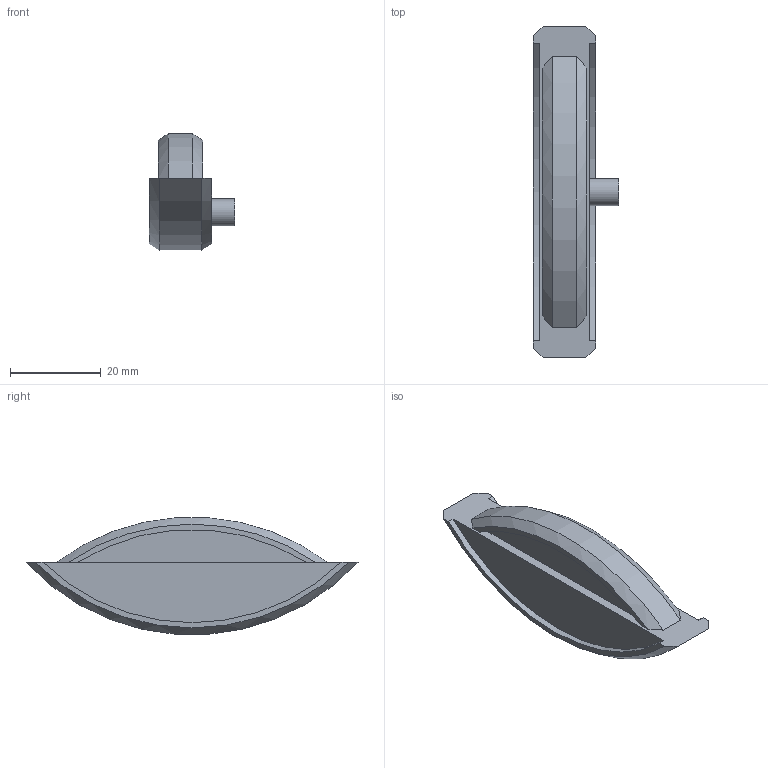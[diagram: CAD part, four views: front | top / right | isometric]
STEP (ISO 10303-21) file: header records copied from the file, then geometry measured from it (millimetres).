
FILE_DESCRIPTION(/* description */ (''),/* implementation_level */ '2;1');
FILE_NAME(/* name */ 'LC P-16x11 mit 6mm Bohrung_P-10.stp',/* time_stamp */ '2024-12-19T16:37:20+01:00',/* author */ ('simond'),/* organization */ (''),/* preprocessor_version */ 'ST-DEVELOPER v19.2',/* originating_system */ 'Autodesk Inventor 2023',/* authorisation */ '');
FILE_SCHEMA (('AUTOMOTIVE_DESIGN { 1 0 10303 214 3 1 1 }'));
Length unit declared in the file: millimetre
Products named in the file (3): LC P-16x11 mit 6mm Bohrung_P-10; P-14 Profilnut; P-10 Profilnut ohne Zugangsbohrung
Assembly tree (2 placements, depth 2):
  LC P-16x11 mit 6mm Bohrung_P-10
    P-14 Profilnut
    P-10 Profilnut ohne Zugangsbohrung
Bounding box: 18.9 x 73.32 x 25.73 mm (x, y, z)
Volume: 12514.8 mm3; surface area: 5612.3 mm2
Topology: 2 solids, 2 shells, 22 faces, 51 edges, 34 vertices
Faces by surface type: plane 11, cylinder 7, cone 4
Full cylindrical faces by diameter (mm): 6 x1
Entity records: 741 total; most frequent: CARTESIAN_POINT 128, DIRECTION 115, ORIENTED_EDGE 102, EDGE_CURVE 51, AXIS2_PLACEMENT_3D 45, VERTEX_POINT 34, LINE 25, VECTOR 25
